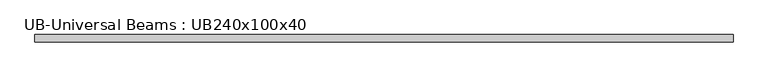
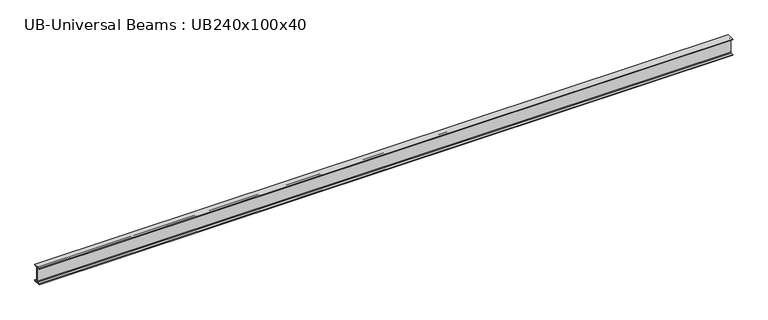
"""IFC4 building model written with IfcOpenShell, lengths in millimetres: beam geometry, UB-Universal Beams : UB240x100x40."""

from ifc_helpers import new_model, si_unit, point, frame, frame_2d, origin, place, context, project, spatial, polyline, circle_curve, trimmed, segment, composite_curve, outline, extrude, source, transform, mapped, element, save


def ub_universal_beams_ub240x100x40_b49092f3(model_context):
    return source(origin(), model_context, "Body", "SweptSolid", [
        extrude(outline(composite_curve([segment(polyline([(-50.0, -109.8), (-11.9, -109.8)]), True, "CONTINUOUS"), segment(trimmed(circle_curve(frame_2d((-11.9, -100.9)), 8.9), [point((-11.9, -109.8))], [point((-3.0, -100.9))], True, "CARTESIAN"), True, "CONTINUOUS"), segment(polyline([(-3.0, -100.9), (-3.0, 100.9)]), True, "CONTINUOUS"), segment(trimmed(circle_curve(frame_2d((-11.9, 100.9)), 8.9), [point((-3.0, 100.9))], [point((-11.9, 109.8))], True, "CARTESIAN"), True, "CONTINUOUS"), segment(polyline([(-11.9, 109.8), (-50.0, 109.8), (-50.0, 120.0), (50.0, 120.0), (50.0, 109.8), (11.9, 109.8)]), True, "CONTINUOUS"), segment(trimmed(circle_curve(frame_2d((11.9, 100.9)), 8.9), [point((11.9, 109.8))], [point((3.0, 100.9))], True, "CARTESIAN"), True, "CONTINUOUS"), segment(polyline([(3.0, 100.9), (3.0, -100.9)]), True, "CONTINUOUS"), segment(trimmed(circle_curve(frame_2d((11.9, -100.9)), 8.9), [point((3.0, -100.9))], [point((11.9, -109.8))], True, "CARTESIAN"), True, "CONTINUOUS"), segment(polyline([(11.9, -109.8), (50.0, -109.8), (50.0, -120.0), (-50.0, -120.0), (-50.0, -109.8)]), True, "CONTINUOUS")], self_intersect=False)), frame((-4839.8, 0.0, 0.0), z_axis=(1.0, 0.0, 0.0), x_axis=(0.0, 1.0, 0.0)), (0.0, 0.0, 1.0), 9679.6),
    ])


if __name__ == "__main__":
    model = new_model("IFC4")
    model_context = context("Model", 3, world=origin())
    ifc_project = project(units=[si_unit("LENGTHUNIT", "METRE", prefix="MILLI")], contexts=[model_context])
    site = spatial("IfcSite", under=ifc_project)
    building = spatial("IfcBuilding", under=site)
    placement = place(None, origin())
    ub_universal_beams_ub240x100x40_shape = ub_universal_beams_ub240x100x40_b49092f3(model_context)
    element("IfcBeam", 1, ObjectType="UB-Universal Beams : UB240x100x40", at=placement, inside=building, context=model_context, shape_type="MappedRepresentation", body=[
        mapped(ub_universal_beams_ub240x100x40_shape, transform((0.0, 0.0, 0.0), x_axis=(1.0, 0.0, 0.0), y_axis=(0.0, 1.0, 0.0), z_axis=(0.0, 0.0, 1.0))),
    ])
    save(model, "model.ifc")
